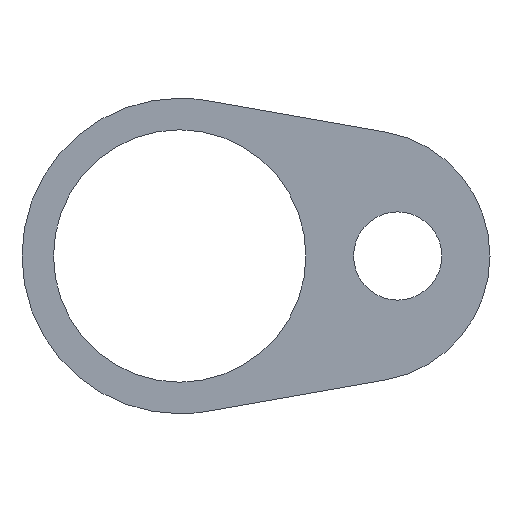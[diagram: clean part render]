
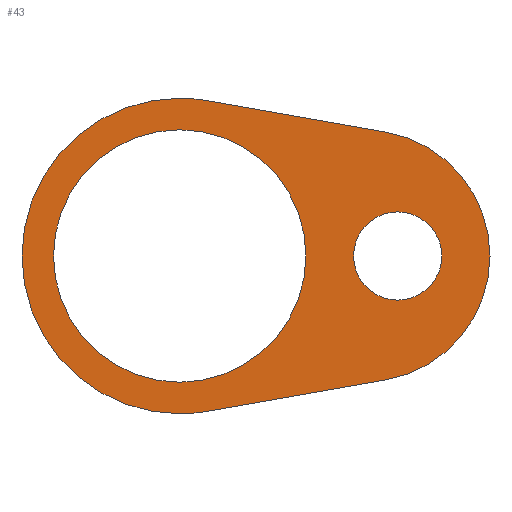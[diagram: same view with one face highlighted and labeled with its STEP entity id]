
A CAD part, front view. The second image highlights one B-rep face of the part: STEP entity #43.
In plain terms, the highlighted planar face has unit normal (0, -1, 0).
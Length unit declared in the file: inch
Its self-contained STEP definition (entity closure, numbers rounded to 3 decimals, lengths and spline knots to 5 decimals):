
#2 = AXIS2_PLACEMENT_3D ( 'NONE', #214, #92, #91 ) ;
#8 = AXIS2_PLACEMENT_3D ( 'NONE', #278, #289, #223 ) ;
#20 = AXIS2_PLACEMENT_3D ( 'NONE', #102, #98, #97 ) ;
#23 = AXIS2_PLACEMENT_3D ( 'NONE', #283, #264, #107 ) ;
#25 = AXIS2_PLACEMENT_3D ( 'NONE', #309, #308, #288 ) ;
#27 = AXIS2_PLACEMENT_3D ( 'NONE', #295, #234, #215 ) ;
#31 = EDGE_CURVE ( 'NONE', #250, #254, #425, .T. ) ;
#32 = EDGE_CURVE ( 'NONE', #254, #302, #421, .T. ) ;
#34 = EDGE_CURVE ( 'NONE', #265, #274, #418, .T. ) ;
#43 = ADVANCED_FACE ( 'NONE', ( #411, #405, #403 ), #213, .F. ) ;
#57 = EDGE_CURVE ( 'NONE', #247, #253, #376, .T. ) ;
#60 = EDGE_CURVE ( 'NONE', #231, #250, #375, .T. ) ;
#62 = EDGE_CURVE ( 'NONE', #253, #247, #371, .T. ) ;
#91 = DIRECTION ( 'NONE',  ( 0., 0., 1. ) ) ;
#92 = DIRECTION ( 'NONE',  ( 0., 1., 0. ) ) ;
#97 = DIRECTION ( 'NONE',  ( 0., 0., 1. ) ) ;
#98 = DIRECTION ( 'NONE',  ( 0., 1., 0. ) ) ;
#102 = CARTESIAN_POINT ( 'NONE',  ( 0.71985, 0., 0. ) ) ;
#107 = DIRECTION ( 'NONE',  ( 0., 0., 1. ) ) ;
#124 = DIRECTION ( 'NONE',  ( 0.985, 0., -0.174 ) ) ;
#125 = CARTESIAN_POINT ( 'NONE',  ( 0.10679, 0., 0.60566 ) ) ;
#126 = DIRECTION ( 'NONE',  ( 0., 0., 1. ) ) ;
#127 = DIRECTION ( 'NONE',  ( 0., 1., 0. ) ) ;
#129 = CARTESIAN_POINT ( 'NONE',  ( 0., 0., 0. ) ) ;
#135 = DIRECTION ( 'NONE',  ( 0., 0., 1. ) ) ;
#136 = DIRECTION ( 'NONE',  ( 0., 1., 0. ) ) ;
#143 = DIRECTION ( 'NONE',  ( 0., 0., 1. ) ) ;
#144 = DIRECTION ( 'NONE',  ( 0., 1., 0. ) ) ;
#145 = CARTESIAN_POINT ( 'NONE',  ( 0., 0., 0. ) ) ;
#152 = CARTESIAN_POINT ( 'NONE',  ( 0., 0., 0. ) ) ;
#161 = CARTESIAN_POINT ( 'NONE',  ( 0., 0., -0.615 ) ) ;
#162 = CARTESIAN_POINT ( 'NONE',  ( 0., 0., -0.49213 ) ) ;
#164 = CARTESIAN_POINT ( 'NONE',  ( 0., 0., 0.49213 ) ) ;
#166 = CARTESIAN_POINT ( 'NONE',  ( 0.10679, 0., 0.60566 ) ) ;
#169 = CARTESIAN_POINT ( 'NONE',  ( 0., 0., 0.615 ) ) ;
#172 = CARTESIAN_POINT ( 'NONE',  ( 0.10679, 0., -0.60566 ) ) ;
#173 = CARTESIAN_POINT ( 'NONE',  ( 0.85, 0., -0.172 ) ) ;
#175 = CARTESIAN_POINT ( 'NONE',  ( 0.85, 0., 0.172 ) ) ;
#180 = CARTESIAN_POINT ( 'NONE',  ( 0.80493, 0., 0.48256 ) ) ;
#181 = CARTESIAN_POINT ( 'NONE',  ( 0.80493, 0., -0.48256 ) ) ;
#196 = AXIS2_PLACEMENT_3D ( 'NONE', #129, #127, #126 ) ;
#204 = AXIS2_PLACEMENT_3D ( 'NONE', #145, #136, #135 ) ;
#207 = AXIS2_PLACEMENT_3D ( 'NONE', #152, #144, #143 ) ;
#213 = PLANE ( 'NONE',  #8 ) ;
#214 = CARTESIAN_POINT ( 'NONE',  ( 0.85, 0., 0. ) ) ;
#215 = DIRECTION ( 'NONE',  ( 0., 0., 1. ) ) ;
#223 = DIRECTION ( 'NONE',  ( 0., 0., 1. ) ) ;
#231 = VERTEX_POINT ( 'NONE', #180 ) ;
#234 = DIRECTION ( 'NONE',  ( 0., 1., 0. ) ) ;
#247 = VERTEX_POINT ( 'NONE', #175 ) ;
#249 = DIRECTION ( 'NONE',  ( -0.985, 0., -0.174 ) ) ;
#250 = VERTEX_POINT ( 'NONE', #181 ) ;
#253 = VERTEX_POINT ( 'NONE', #173 ) ;
#254 = VERTEX_POINT ( 'NONE', #172 ) ;
#264 = DIRECTION ( 'NONE',  ( 0., 1., 0. ) ) ;
#265 = VERTEX_POINT ( 'NONE', #169 ) ;
#272 = CARTESIAN_POINT ( 'NONE',  ( 0.10679, 0., -0.60566 ) ) ;
#274 = VERTEX_POINT ( 'NONE', #166 ) ;
#278 = CARTESIAN_POINT ( 'NONE',  ( 0., 0., 0. ) ) ;
#281 = VERTEX_POINT ( 'NONE', #164 ) ;
#283 = CARTESIAN_POINT ( 'NONE',  ( 0.85, 0., 0. ) ) ;
#288 = DIRECTION ( 'NONE',  ( 0., 0., 1. ) ) ;
#289 = DIRECTION ( 'NONE',  ( 0., 1., 0. ) ) ;
#291 = VERTEX_POINT ( 'NONE', #162 ) ;
#295 = CARTESIAN_POINT ( 'NONE',  ( 0., 0., 0. ) ) ;
#302 = VERTEX_POINT ( 'NONE', #161 ) ;
#308 = DIRECTION ( 'NONE',  ( 0., 1., 0. ) ) ;
#309 = CARTESIAN_POINT ( 'NONE',  ( 0., 0., 0. ) ) ;
#319 = EDGE_CURVE ( 'NONE', #291, #281, #338, .T. ) ;
#322 = EDGE_CURVE ( 'NONE', #302, #265, #336, .T. ) ;
#325 = EDGE_CURVE ( 'NONE', #281, #291, #340, .T. ) ;
#326 = EDGE_CURVE ( 'NONE', #274, #231, #331, .T. ) ;
#331 = LINE ( 'NONE', #125, #334 ) ;
#334 = VECTOR ( 'NONE', #124, 39.37008 ) ;
#336 = CIRCLE ( 'NONE', #204, 0.615 ) ;
#338 = CIRCLE ( 'NONE', #207, 0.49213 ) ;
#340 = CIRCLE ( 'NONE', #196, 0.49213 ) ;
#371 = CIRCLE ( 'NONE', #2, 0.172 ) ;
#375 = CIRCLE ( 'NONE', #20, 0.49 ) ;
#376 = CIRCLE ( 'NONE', #23, 0.172 ) ;
#395 = ORIENTED_EDGE ( 'NONE', *, *, #319, .T. ) ;
#403 = FACE_BOUND ( 'NONE', #444, .T. ) ;
#405 = FACE_OUTER_BOUND ( 'NONE', #456, .T. ) ;
#411 = FACE_BOUND ( 'NONE', #449, .T. ) ;
#418 = CIRCLE ( 'NONE', #27, 0.615 ) ;
#421 = CIRCLE ( 'NONE', #25, 0.615 ) ;
#425 = LINE ( 'NONE', #272, #429 ) ;
#429 = VECTOR ( 'NONE', #249, 39.37008 ) ;
#444 = EDGE_LOOP ( 'NONE', ( #509, #472 ) ) ;
#449 = EDGE_LOOP ( 'NONE', ( #395, #478 ) ) ;
#456 = EDGE_LOOP ( 'NONE', ( #479, #480, #475, #470, #508, #471 ) ) ;
#470 = ORIENTED_EDGE ( 'NONE', *, *, #326, .F. ) ;
#471 = ORIENTED_EDGE ( 'NONE', *, *, #322, .F. ) ;
#472 = ORIENTED_EDGE ( 'NONE', *, *, #57, .T. ) ;
#475 = ORIENTED_EDGE ( 'NONE', *, *, #60, .F. ) ;
#478 = ORIENTED_EDGE ( 'NONE', *, *, #325, .T. ) ;
#479 = ORIENTED_EDGE ( 'NONE', *, *, #32, .F. ) ;
#480 = ORIENTED_EDGE ( 'NONE', *, *, #31, .F. ) ;
#508 = ORIENTED_EDGE ( 'NONE', *, *, #34, .F. ) ;
#509 = ORIENTED_EDGE ( 'NONE', *, *, #62, .T. ) ;
